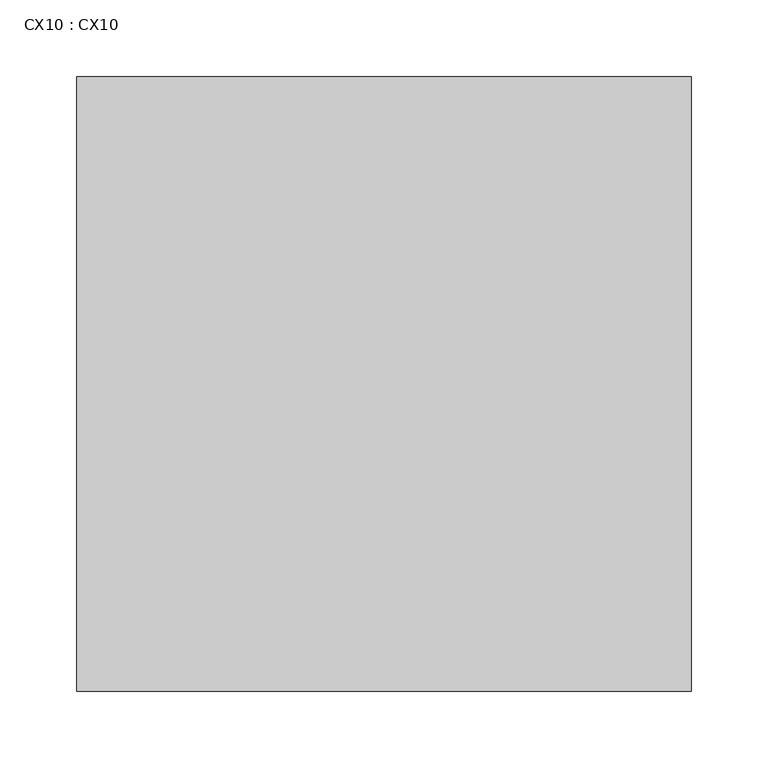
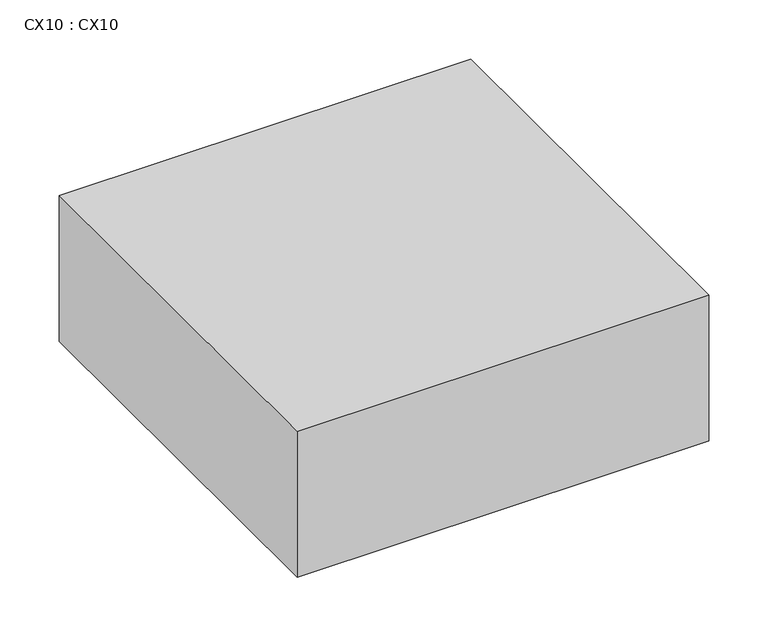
"""IFC4 building model written with IfcOpenShell, lengths in millimetres: proxy geometry, CX10 : CX10."""

import ifcopenshell
import ifcopenshell.guid

model = None  # the IFC model being written
_history = None  # IfcOwnerHistory: only IFC2X3 demands one
_inside = {}  # id of a spatial element -> (the spatial element, [elements in it])
_under = {}  # id of a project, library or spatial element -> (it, [spatial elements below it])
_declared = {}  # id of a project -> (the project, [libraries it declares])
_typed = {}  # id of a type object -> (the type object, [elements of that type])
_made_of = {}  # id of a material, layer set ... -> (it, [elements and type objects made of it])


def new_model(schema):
    """Start an empty IFC model of exactly this schema.

    Asked for "IFC4X3", IfcOpenShell would pick the latest addendum, in which some entities
    have other attributes; the version numbers below select the first issue.
    IFC2X3 requires an IfcOwnerHistory on every rooted entity: one is made here for all.
    """
    global model, _history
    if schema == "IFC4X3":
        model = ifcopenshell.file(schema_version=(4, 3, 0, 0))
    else:
        model = ifcopenshell.file(schema=schema)
    _inside.clear()
    _under.clear()
    _declared.clear()
    _typed.clear()
    _made_of.clear()
    _history = None
    if model.schema == "IFC2X3":
        org = make("IfcOrganization", Name="unknown")
        user = make(
            "IfcPersonAndOrganization",
            ThePerson=make("IfcPerson", FamilyName="unknown"),
            TheOrganization=org,
        )
        app = make(
            "IfcApplication",
            ApplicationDeveloper=org,
            Version="unknown",
            ApplicationFullName="unknown",
            ApplicationIdentifier="unknown",
        )
        _history = make(
            "IfcOwnerHistory",
            OwningUser=user,
            OwningApplication=app,
            ChangeAction="ADDED",
            CreationDate=0,
        )
    return model


def make(cls, **values):
    """One entity of the class cls with the attributes given. An attribute that is None is left unset."""
    return model.create_entity(
        cls, **{name: value for name, value in values.items() if value is not None}
    )


def rooted(cls, **values):
    """An entity with a GlobalId (a new one), such as an element, a storey or a relation."""
    return make(cls, GlobalId=ifcopenshell.guid.new(), OwnerHistory=_history, **values)


def si_unit(unit_type, name, prefix=None):
    """IfcSIUnit, for example si_unit("LENGTHUNIT", "METRE", prefix="MILLI")."""
    return make("IfcSIUnit", UnitType=unit_type, Prefix=prefix, Name=name)


def assignment(units):
    """IfcUnitAssignment: the units of a project."""
    return None if units is None else make("IfcUnitAssignment", Units=units)


def point(xyz):
    """IfcCartesianPoint."""
    return None if xyz is None else make("IfcCartesianPoint", Coordinates=xyz)


def direction(xyz):
    """IfcDirection."""
    return None if xyz is None else make("IfcDirection", DirectionRatios=xyz)


def frame(location, z_axis=None, x_axis=None):
    """IfcAxis2Placement3D, a coordinate frame: its origin and axes. An axis left out is left unset."""
    return make(
        "IfcAxis2Placement3D",
        Location=point(location),
        Axis=direction(z_axis),
        RefDirection=direction(x_axis),
    )


def origin():
    """The frame at (0, 0, 0) with its axes left unset."""
    return frame((0.0, 0.0, 0.0))


def place(relative_to, where):
    """IfcLocalPlacement: puts the frame where relative to a parent placement (None: the world)."""
    return make(
        "IfcLocalPlacement", PlacementRelTo=relative_to, RelativePlacement=where
    )


def context(
    kind, dimensions, precision=None, world=None, true_north=None, identifier=None
):
    """IfcGeometricRepresentationContext, for example the 3D "Model" context."""
    return make(
        "IfcGeometricRepresentationContext",
        ContextIdentifier=identifier,
        ContextType=kind,
        CoordinateSpaceDimension=dimensions,
        Precision=precision,
        WorldCoordinateSystem=world,
        TrueNorth=true_north,
    )


def project(units=None, contexts=None):
    """IfcProject with its units and contexts."""
    return rooted(
        "IfcProject",
        Name="project",
        RepresentationContexts=contexts,
        UnitsInContext=assignment(units),
    )


def spatial(cls, under=None, at=None, **own):
    """A site, building, storey or space (cls), placed at a placement, below another one or the project."""
    s = rooted(cls, ObjectPlacement=at, **own)
    if under is not None:
        _under.setdefault(under.id(), (under, []))[1].append(s)
    return s


def polyline(points):
    """IfcPolyline through the points."""
    return make("IfcPolyline", Points=[point(p) for p in points])


def outline(outer, holes=None, kind="AREA"):
    """IfcArbitraryClosedProfileDef: a profile drawn as a closed curve; with holes, ...WithVoids."""
    if holes is None:
        return make("IfcArbitraryClosedProfileDef", ProfileType=kind, OuterCurve=outer)
    return make(
        "IfcArbitraryProfileDefWithVoids",
        ProfileType=kind,
        OuterCurve=outer,
        InnerCurves=holes,
    )


def extrude(swept, where, along, depth):
    """IfcExtrudedAreaSolid: the profile swept, set in the frame where, extruded along a direction by depth."""
    return make(
        "IfcExtrudedAreaSolid",
        SweptArea=swept,
        Position=where,
        ExtrudedDirection=direction(along),
        Depth=depth,
    )


def shape(context_of_items, identifier, shape_type, items):
    """IfcShapeRepresentation: the items that make up one representation, for example the "Body"."""
    return make(
        "IfcShapeRepresentation",
        ContextOfItems=context_of_items,
        RepresentationIdentifier=identifier,
        RepresentationType=shape_type,
        Items=items,
    )


def source(mapping_origin, context_of_items, identifier, shape_type, items):
    """IfcRepresentationMap: a shape defined once, which mapped items show again and again."""
    return make(
        "IfcRepresentationMap",
        MappingOrigin=mapping_origin,
        MappedRepresentation=shape(context_of_items, identifier, shape_type, items),
    )


def transform(
    local_origin,
    x_axis=None,
    y_axis=None,
    z_axis=None,
    scale=None,
    scale2=None,
    scale3=None,
    uniform=True,
):
    """IfcCartesianTransformationOperator3D, or its non-uniform kind. x_axis, y_axis, z_axis: its Axis1, 2, 3."""
    if uniform:
        return make(
            "IfcCartesianTransformationOperator3D",
            Axis1=direction(x_axis),
            Axis2=direction(y_axis),
            LocalOrigin=point(local_origin),
            Scale=scale,
            Axis3=direction(z_axis),
        )
    return make(
        "IfcCartesianTransformationOperator3DnonUniform",
        Axis1=direction(x_axis),
        Axis2=direction(y_axis),
        LocalOrigin=point(local_origin),
        Scale=scale,
        Axis3=direction(z_axis),
        Scale2=scale2,
        Scale3=scale3,
    )


def mapped(mapping_source, mapping_target):
    """IfcMappedItem: shows the shape of a source again, moved by a transform."""
    return make(
        "IfcMappedItem", MappingSource=mapping_source, MappingTarget=mapping_target
    )


def made_of(thing, what):
    """Note that an element or type object is made of a material, layer set ...; save() writes the relation."""
    if what is not None:
        _made_of.setdefault(what.id(), (what, []))[1].append(thing)
    return thing


def element(
    cls,
    number,
    at=None,
    inside=None,
    cuts=None,
    type_object=None,
    material=None,
    context=None,
    identifier="Body",
    shape_type=None,
    held_by="IfcProductDefinitionShape",
    body=None,
    shapes=None,
    **own,
):
    """One element of the class cls, such as IfcWall. Its Tag is "e" and its number.

    at: its placement. inside: the storey or other place that contains it. cuts: it is an
    opening in that element (IfcRelVoidsElement). A single representation is given by context,
    identifier, shape_type and body (its items); several are given by shapes. held_by: the class
    of the entity that holds the representations. save() writes the other relations.
    """
    e = rooted(cls, Tag="e%d" % number, ObjectPlacement=at, **own)
    if body is not None:
        shapes = [shape(context, identifier, shape_type, body)]
    if shapes is not None:
        e.Representation = make(held_by, Representations=shapes)
    if inside is not None:
        _inside.setdefault(inside.id(), (inside, []))[1].append(e)
    if cuts is not None:
        rooted(
            "IfcRelVoidsElement", RelatingBuildingElement=cuts, RelatedOpeningElement=e
        )
    if type_object is not None:
        _typed.setdefault(type_object.id(), (type_object, []))[1].append(e)
    return made_of(e, material)


def aggregate(whole, parts):
    """IfcRelAggregates: a whole, such as a stair, and the parts it consists of."""
    return rooted("IfcRelAggregates", RelatingObject=whole, RelatedObjects=parts)


def save(model, path):
    """Write the relations noted so far, then the file.

    IfcRelAggregates (storeys below a building ...), IfcRelContainedInSpatialStructure (elements
    in a storey), IfcRelDefinesByType, IfcRelAssociatesMaterial and IfcRelDeclares: one each for
    every whole, place, type object, material and project.
    """
    for whole, parts in _under.values():
        aggregate(whole, parts)
    for where, things in _inside.values():
        rooted(
            "IfcRelContainedInSpatialStructure",
            RelatedElements=things,
            RelatingStructure=where,
        )
    for kind, things in _typed.values():
        rooted("IfcRelDefinesByType", RelatedObjects=things, RelatingType=kind)
    for what, things in _made_of.values():
        rooted("IfcRelAssociatesMaterial", RelatedObjects=things, RelatingMaterial=what)
    for by, libraries in _declared.values():
        rooted("IfcRelDeclares", RelatingContext=by, RelatedDefinitions=libraries)
    model.write(path)


def cx10_cx10_1cb2585f(model_context):
    return source(origin(), model_context, "Body", "SweptSolid", [
        extrude(outline(polyline([(11964.5, 14966.3), (12364.5, 14966.3), (12364.5, 14566.3), (11964.5, 14566.3), (11964.5, 14966.3)])), frame((0.0, 0.0, 2870.0), z_axis=(0.0, 0.0, 1.0), x_axis=(1.0, 0.0, 0.0)), (0.0, 0.0, 1.0), 150.0),
    ])


if __name__ == "__main__":
    model = new_model("IFC4")
    model_context = context("Model", 3, world=origin())
    ifc_project = project(units=[si_unit("LENGTHUNIT", "METRE", prefix="MILLI")], contexts=[model_context])
    site = spatial("IfcSite", under=ifc_project)
    building = spatial("IfcBuilding", under=site)
    placement = place(None, origin())
    cx10_cx10_shape = cx10_cx10_1cb2585f(model_context)
    element("IfcBuildingElementProxy", 1, Name="CX10 : CX10", ObjectType="CX10 : CX10", at=placement, inside=building, context=model_context, shape_type="MappedRepresentation", body=[
        mapped(cx10_cx10_shape, transform((0.0, 0.0, 0.0), x_axis=(1.0, 0.0, 0.0), y_axis=(0.0, 1.0, 0.0), z_axis=(0.0, 0.0, 1.0))),
    ])
    save(model, "model.ifc")
